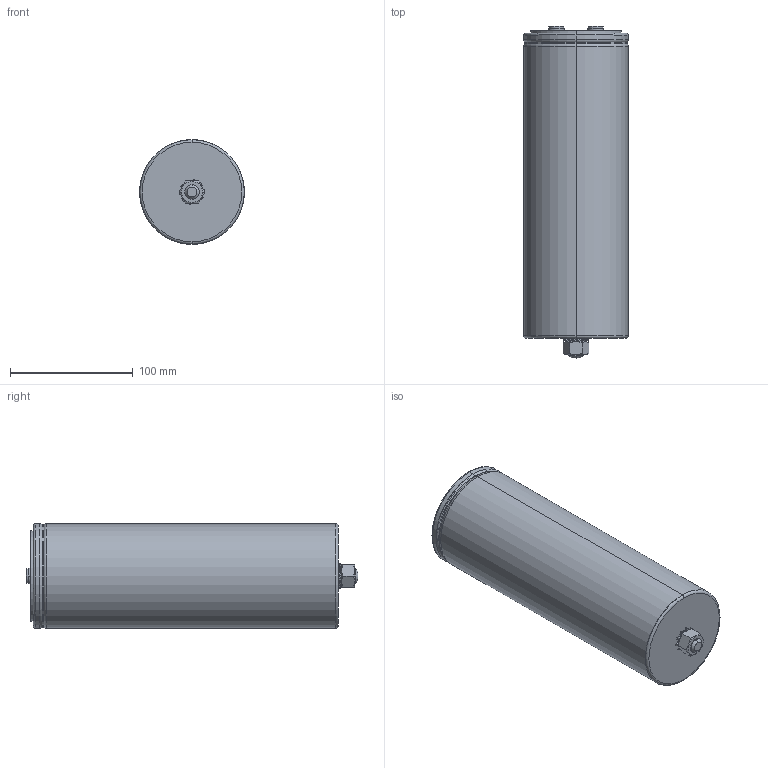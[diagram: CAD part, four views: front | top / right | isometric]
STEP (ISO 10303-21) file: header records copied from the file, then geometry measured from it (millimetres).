
FILE_DESCRIPTION (( 'STEP AP203' ), '1' );
FILE_NAME ('B25620Bx_85x248_254.STEP', '2021-07-01T03:33:50', ( '' ), ( '' ), 'SwSTEP 2.0', 'SolidWorks 2017', '' );
FILE_SCHEMA (( 'CONFIG_CONTROL_DESIGN' ));
Length unit declared in the file: millimetre
Products named in the file (1): B25620Bx_85x248_254
Bounding box: 85.4 x 270 x 85.4 mm (x, y, z)
Volume: 83532.6 mm3; surface area: 160921.9 mm2
Topology: 2 solids, 3 shells, 234 faces, 540 edges, 338 vertices
Faces by surface type: cylinder 85, plane 55, bspline 48, cone 30, torus 16
Entity records: 7453 total; most frequent: CARTESIAN_POINT 2221, ORIENTED_EDGE 1072, DIRECTION 1048, EDGE_CURVE 536, AXIS2_PLACEMENT_3D 423, VERTEX_POINT 338, EDGE_LOOP 266, CIRCLE 236
